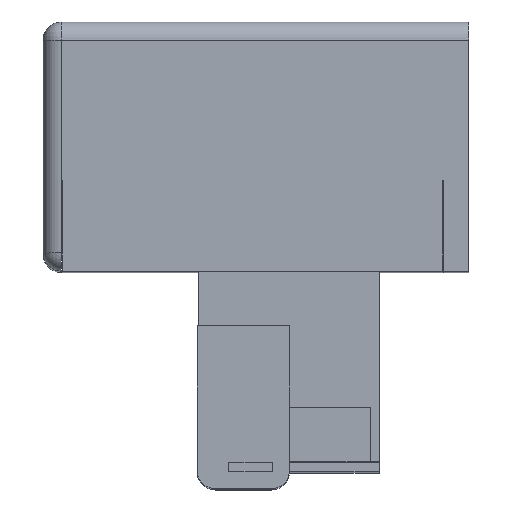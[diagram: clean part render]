
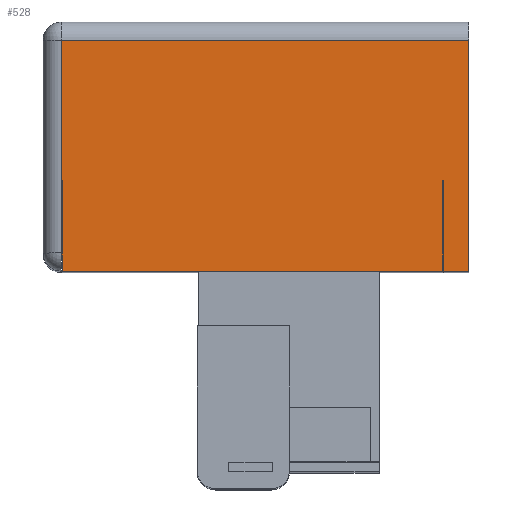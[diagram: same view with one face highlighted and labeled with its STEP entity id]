
A CAD part, top view. The second image highlights one B-rep face of the part: STEP entity #528.
In plain terms, the highlighted planar face has unit normal (0, 0, 1) as drawn and (-1, 0, 0) by its records, which use the part's own axes.
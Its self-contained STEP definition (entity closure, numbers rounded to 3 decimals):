
#528=ADVANCED_FACE('',(#5271),#5270,.F.);
#5270=PLANE('',#12888);
#5271=FACE_OUTER_BOUND('',#12889,.T.);
#12885=CARTESIAN_POINT('',(-47.,-0.55,49.5));
#12886=DIRECTION('',(1.,0.,0.));
#12887=DIRECTION('',(0.,0.,-1.));
#12888=AXIS2_PLACEMENT_3D('',#12885,#12886,#12887);
#12889=EDGE_LOOP('',(#18771,#18772,#18773,#18774,#18775,#18776,#18777,#18778,#18779,#18780));
#18771=ORIENTED_EDGE('',*,*,#23334,.T.);
#18772=ORIENTED_EDGE('',*,*,#23335,.T.);
#18773=ORIENTED_EDGE('',*,*,#23321,.T.);
#18774=ORIENTED_EDGE('',*,*,#23223,.F.);
#18775=ORIENTED_EDGE('',*,*,#23211,.F.);
#18776=ORIENTED_EDGE('',*,*,#23219,.T.);
#18777=ORIENTED_EDGE('',*,*,#23326,.T.);
#18778=ORIENTED_EDGE('',*,*,#23336,.T.);
#18779=ORIENTED_EDGE('',*,*,#23337,.T.);
#18780=ORIENTED_EDGE('',*,*,#23338,.T.);
#23211=EDGE_CURVE('',#32977,#32984,#32985,.T.);
#23219=EDGE_CURVE('',#32977,#33033,#33040,.T.);
#23223=EDGE_CURVE('',#32984,#33052,#33066,.T.);
#23321=EDGE_CURVE('',#33732,#33052,#33733,.T.);
#23326=EDGE_CURVE('',#33033,#33759,#33766,.T.);
#23334=EDGE_CURVE('',#33818,#33819,#33820,.T.);
#23335=EDGE_CURVE('',#33819,#33732,#33826,.T.);
#23336=EDGE_CURVE('',#33759,#33832,#33833,.T.);
#23337=EDGE_CURVE('',#33832,#33839,#33840,.T.);
#23338=EDGE_CURVE('',#33839,#33818,#33846,.T.);
#32977=VERTEX_POINT('',#47159);
#32984=VERTEX_POINT('',#47163);
#32985=LINE('',#47164,#47165);
#33033=VERTEX_POINT('',#47195);
#33040=LINE('',#47199,#47200);
#33052=VERTEX_POINT('',#47205);
#33066=LINE('',#47213,#47214);
#33732=VERTEX_POINT('',#47651);
#33733=LINE('',#47652,#47653);
#33759=VERTEX_POINT('',#47666);
#33766=LINE('',#47670,#47671);
#33818=VERTEX_POINT('',#47698);
#33819=VERTEX_POINT('',#47699);
#33820=LINE('',#47700,#47701);
#33826=LINE('',#47703,#47704);
#33832=VERTEX_POINT('',#47706);
#33833=LINE('',#47707,#47708);
#33839=VERTEX_POINT('',#47710);
#33840=LINE('',#47711,#47712);
#33846=LINE('',#47714,#47715);
#47159=CARTESIAN_POINT('',(-47.,27.5,2.9));
#47163=CARTESIAN_POINT('',(-47.,27.5,44.9));
#47164=CARTESIAN_POINT('',(-47.,27.5,2.9));
#47165=VECTOR('',#47166,42.);
#47166=DIRECTION('',(0.,0.,1.));
#47195=CARTESIAN_POINT('',(-47.,17.5,2.9));
#47199=CARTESIAN_POINT('',(-47.,27.5,2.9));
#47200=VECTOR('',#47201,10.);
#47201=DIRECTION('',(0.,-1.,0.));
#47205=CARTESIAN_POINT('',(-47.,17.5,44.9));
#47213=CARTESIAN_POINT('',(-47.,27.5,44.9));
#47214=VECTOR('',#47215,10.);
#47215=DIRECTION('',(0.,-1.,0.));
#47651=CARTESIAN_POINT('',(-47.,17.5,45.));
#47652=CARTESIAN_POINT('',(-47.,17.5,45.));
#47653=VECTOR('',#47654,0.1);
#47654=DIRECTION('',(0.,0.,-1.));
#47666=CARTESIAN_POINT('',(-47.,17.5,2.8));
#47670=CARTESIAN_POINT('',(-47.,17.5,2.9));
#47671=VECTOR('',#47672,0.1);
#47672=DIRECTION('',(0.,0.,-1.));
#47698=CARTESIAN_POINT('',(-47.,2.,0.));
#47699=CARTESIAN_POINT('',(-47.,2.,45.));
#47700=CARTESIAN_POINT('',(-47.,2.,0.));
#47701=VECTOR('',#47702,45.);
#47702=DIRECTION('',(0.,0.,1.));
#47703=CARTESIAN_POINT('',(-47.,2.,45.));
#47704=VECTOR('',#47705,15.5);
#47705=DIRECTION('',(0.,1.,0.));
#47706=CARTESIAN_POINT('',(-47.,27.5,2.8));
#47707=CARTESIAN_POINT('',(-47.,17.5,2.8));
#47708=VECTOR('',#47709,10.);
#47709=DIRECTION('',(0.,1.,0.));
#47710=CARTESIAN_POINT('',(-47.,27.5,0.));
#47711=CARTESIAN_POINT('',(-47.,27.5,2.8));
#47712=VECTOR('',#47713,2.8);
#47713=DIRECTION('',(0.,0.,-1.));
#47714=CARTESIAN_POINT('',(-47.,27.5,0.));
#47715=VECTOR('',#47716,25.5);
#47716=DIRECTION('',(0.,-1.,0.));
